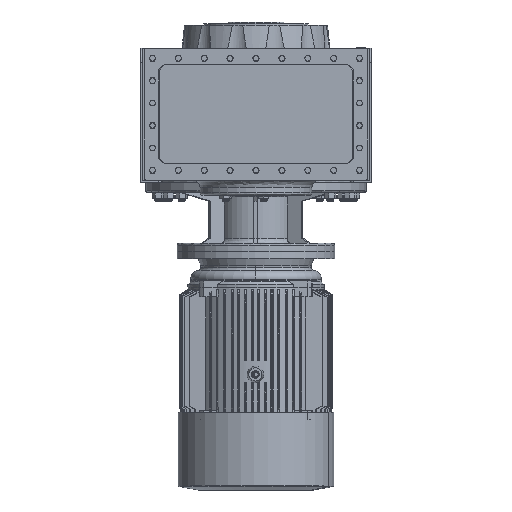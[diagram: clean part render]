
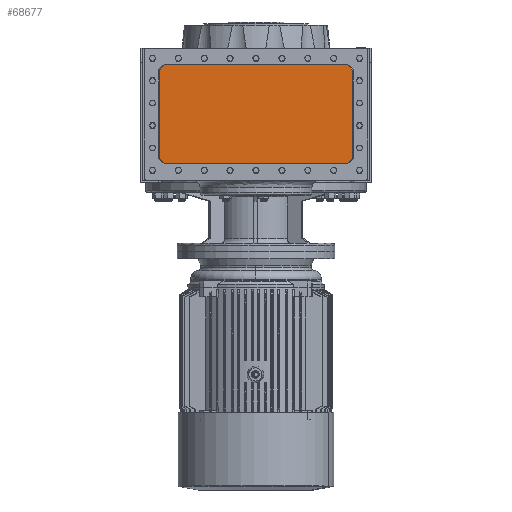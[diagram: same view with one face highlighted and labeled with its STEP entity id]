
A CAD part, front view. The second image highlights one B-rep face of the part: STEP entity #68677.
In plain terms, the highlighted planar face has unit normal (0, -1, 0).
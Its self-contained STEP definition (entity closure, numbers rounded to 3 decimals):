
#1670 = EDGE_LOOP ( 'NONE', ( #17330, #11986, #2639, #44763, #2640, #2641, #2644, #2627 ) ) ;
#2627 = ORIENTED_EDGE ( 'NONE', *, *, #4512, .F. ) ;
#2639 = ORIENTED_EDGE ( 'NONE', *, *, #4528, .F. ) ;
#2640 = ORIENTED_EDGE ( 'NONE', *, *, #4524, .F. ) ;
#2641 = ORIENTED_EDGE ( 'NONE', *, *, #4536, .F. ) ;
#2644 = ORIENTED_EDGE ( 'NONE', *, *, #4510, .F. ) ;
#4510 = EDGE_CURVE ( 'NONE', #42252, #42170, #31731, .T. ) ;
#4512 = EDGE_CURVE ( 'NONE', #42280, #42252, #31707, .T. ) ;
#4524 = EDGE_CURVE ( 'NONE', #42392, #42154, #31753, .T. ) ;
#4526 = EDGE_CURVE ( 'NONE', #42154, #42324, #31732, .T. ) ;
#4527 = EDGE_CURVE ( 'NONE', #42362, #42192, #31749, .T. ) ;
#4528 = EDGE_CURVE ( 'NONE', #42324, #42362, #31727, .T. ) ;
#4536 = EDGE_CURVE ( 'NONE', #42170, #42392, #31722, .T. ) ;
#4559 = EDGE_CURVE ( 'NONE', #42192, #42280, #31768, .T. ) ;
#11986 = ORIENTED_EDGE ( 'NONE', *, *, #4527, .F. ) ;
#17330 = ORIENTED_EDGE ( 'NONE', *, *, #4559, .F. ) ;
#19340 = CARTESIAN_POINT ( 'NONE',  ( -262.432, -262., 336.432 ) ) ;
#19342 = CARTESIAN_POINT ( 'NONE',  ( 277.196, -262., 68. ) ) ;
#19354 = DIRECTION ( 'NONE',  ( 0.707, 0., 0.707 ) ) ;
#19361 = DIRECTION ( 'NONE',  ( 1., 0., 0. ) ) ;
#19374 = CARTESIAN_POINT ( 'NONE',  ( 263., -262., 336.196 ) ) ;
#19377 = CARTESIAN_POINT ( 'NONE',  ( 262.432, -262., 53.568 ) ) ;
#19380 = DIRECTION ( 'NONE',  ( -1., 0., 0. ) ) ;
#19390 = DIRECTION ( 'NONE',  ( -0.707, 0., 0.707 ) ) ;
#19402 = DIRECTION ( 'NONE',  ( 0., 0., -1. ) ) ;
#19408 = DIRECTION ( 'NONE',  ( -0.707, 0., -0.707 ) ) ;
#19420 = CARTESIAN_POINT ( 'NONE',  ( 263., -262., 53.804 ) ) ;
#19425 = CARTESIAN_POINT ( 'NONE',  ( -262.432, -262., 53.568 ) ) ;
#19453 = CARTESIAN_POINT ( 'NONE',  ( 277.432, -262., 321.432 ) ) ;
#19499 = DIRECTION ( 'NONE',  ( 0.707, 0., -0.707 ) ) ;
#19536 = DIRECTION ( 'NONE',  ( 0., 0., 1. ) ) ;
#19556 = CARTESIAN_POINT ( 'NONE',  ( -277.196, -262., 68. ) ) ;
#22531 = PLANE ( 'NONE',  #59691 ) ;
#22569 = DIRECTION ( 'NONE',  ( 0., 0., -1. ) ) ;
#22580 = DIRECTION ( 'NONE',  ( 0., -1., 0. ) ) ;
#22610 = CARTESIAN_POINT ( 'NONE',  ( 0., -262., 0. ) ) ;
#31696 = VECTOR ( 'NONE', #19402, 1000. ) ;
#31707 = LINE ( 'NONE', #19340, #31713 ) ;
#31708 = VECTOR ( 'NONE', #19380, 1000. ) ;
#31713 = VECTOR ( 'NONE', #19354, 1000. ) ;
#31722 = LINE ( 'NONE', #19453, #31730 ) ;
#31726 = VECTOR ( 'NONE', #19408, 1000. ) ;
#31727 = LINE ( 'NONE', #19420, #31708 ) ;
#31730 = VECTOR ( 'NONE', #19499, 1000. ) ;
#31731 = LINE ( 'NONE', #19374, #31733 ) ;
#31732 = LINE ( 'NONE', #19377, #31726 ) ;
#31733 = VECTOR ( 'NONE', #19361, 1000. ) ;
#31736 = VECTOR ( 'NONE', #19390, 1000. ) ;
#31749 = LINE ( 'NONE', #19425, #31736 ) ;
#31753 = LINE ( 'NONE', #19342, #31696 ) ;
#31761 = VECTOR ( 'NONE', #19536, 1000. ) ;
#31768 = LINE ( 'NONE', #19556, #31761 ) ;
#42154 = VERTEX_POINT ( 'NONE', #46882 ) ;
#42170 = VERTEX_POINT ( 'NONE', #46920 ) ;
#42192 = VERTEX_POINT ( 'NONE', #46874 ) ;
#42252 = VERTEX_POINT ( 'NONE', #46934 ) ;
#42280 = VERTEX_POINT ( 'NONE', #46974 ) ;
#42324 = VERTEX_POINT ( 'NONE', #47028 ) ;
#42362 = VERTEX_POINT ( 'NONE', #47013 ) ;
#42392 = VERTEX_POINT ( 'NONE', #47019 ) ;
#44763 = ORIENTED_EDGE ( 'NONE', *, *, #4526, .F. ) ;
#46874 = CARTESIAN_POINT ( 'NONE',  ( -277.196, -262., 68.333 ) ) ;
#46882 = CARTESIAN_POINT ( 'NONE',  ( 277.196, -262., 68.333 ) ) ;
#46920 = CARTESIAN_POINT ( 'NONE',  ( 262.667, -262., 336.196 ) ) ;
#46934 = CARTESIAN_POINT ( 'NONE',  ( -262.667, -262., 336.196 ) ) ;
#46974 = CARTESIAN_POINT ( 'NONE',  ( -277.196, -262., 321.667 ) ) ;
#47013 = CARTESIAN_POINT ( 'NONE',  ( -262.667, -262., 53.804 ) ) ;
#47019 = CARTESIAN_POINT ( 'NONE',  ( 277.196, -262., 321.667 ) ) ;
#47028 = CARTESIAN_POINT ( 'NONE',  ( 262.667, -262., 53.804 ) ) ;
#56320 = FACE_OUTER_BOUND ( 'NONE', #1670, .T. ) ;
#59691 = AXIS2_PLACEMENT_3D ( 'NONE', #22610, #22580, #22569 ) ;
#68677 = ADVANCED_FACE ( 'NONE', ( #56320 ), #22531, .T. ) ;
